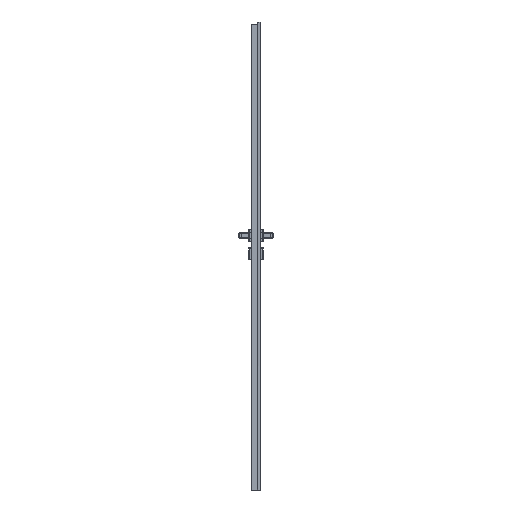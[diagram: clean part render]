
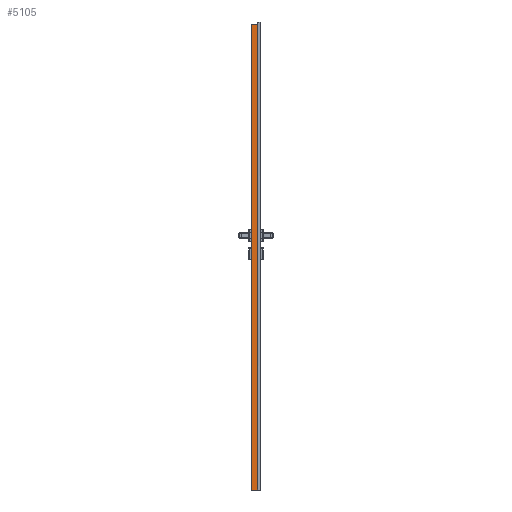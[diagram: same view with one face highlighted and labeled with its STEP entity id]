
A CAD part, left-side view. The second image highlights one B-rep face of the part: STEP entity #5105.
In plain terms, the highlighted planar face has unit normal (-1, 0, 0).
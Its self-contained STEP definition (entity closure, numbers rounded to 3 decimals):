
#2803=FACE_OUTER_BOUND('',#10002,.T.);
#5105=ADVANCED_FACE('',(#2803),#7194,.T.);
#7194=PLANE('',#41862);
#8586=CIRCLE('',#41861,1.49);
#10002=EDGE_LOOP('',(#14163,#14164,#14165,#14166,#14167));
#14163=ORIENTED_EDGE('',*,*,#28615,.T.);
#14164=ORIENTED_EDGE('',*,*,#28613,.T.);
#14165=ORIENTED_EDGE('',*,*,#28616,.T.);
#14166=ORIENTED_EDGE('',*,*,#28617,.F.);
#14167=ORIENTED_EDGE('',*,*,#28618,.T.);
#24528=VERTEX_POINT('',#62218);
#24529=VERTEX_POINT('',#62220);
#24530=VERTEX_POINT('',#62224);
#24531=VERTEX_POINT('',#62226);
#24532=VERTEX_POINT('',#62228);
#28613=EDGE_CURVE('',#24529,#24528,#33949,.T.);
#28615=EDGE_CURVE('',#24530,#24529,#33950,.T.);
#28616=EDGE_CURVE('',#24528,#24531,#33951,.T.);
#28617=EDGE_CURVE('',#24532,#24531,#33952,.T.);
#28618=EDGE_CURVE('',#24532,#24530,#8586,.T.);
#33949=LINE('',#62219,#37839);
#33950=LINE('',#62223,#37840);
#33951=LINE('',#62225,#37841);
#33952=LINE('',#62227,#37842);
#37839=VECTOR('',#47018,1.);
#37840=VECTOR('',#47023,1.);
#37841=VECTOR('',#47024,1.);
#37842=VECTOR('',#47025,1.);
#41861=AXIS2_PLACEMENT_3D('',#62229,#47026,#47027);
#41862=AXIS2_PLACEMENT_3D('',#62230,#47028,#47029);
#47018=DIRECTION('',(0.,0.,-1.));
#47023=DIRECTION('',(0.,1.,0.));
#47024=DIRECTION('',(0.,-1.,0.));
#47025=DIRECTION('',(0.,0.,-1.));
#47026=DIRECTION('',(1.,0.,0.));
#47027=DIRECTION('',(0.,0.,1.));
#47028=DIRECTION('',(-1.,0.,0.));
#47029=DIRECTION('',(0.,-1.,0.));
#62218=CARTESIAN_POINT('',(-309.,-1.65,0.));
#62219=CARTESIAN_POINT('',(-309.,-1.65,0.));
#62220=CARTESIAN_POINT('',(-309.,-1.65,2017.01));
#62223=CARTESIAN_POINT('',(-309.,0.,2017.01));
#62224=CARTESIAN_POINT('',(-309.,-24.2,2017.01));
#62225=CARTESIAN_POINT('',(-309.,-1.65,0.));
#62226=CARTESIAN_POINT('',(-309.,-24.65,0.));
#62227=CARTESIAN_POINT('',(-309.,-24.65,0.));
#62228=CARTESIAN_POINT('',(-309.,-24.649,2017.071));
#62229=CARTESIAN_POINT('',(-309.,-24.2,2018.5));
#62230=CARTESIAN_POINT('',(-309.,-1.65,0.));
